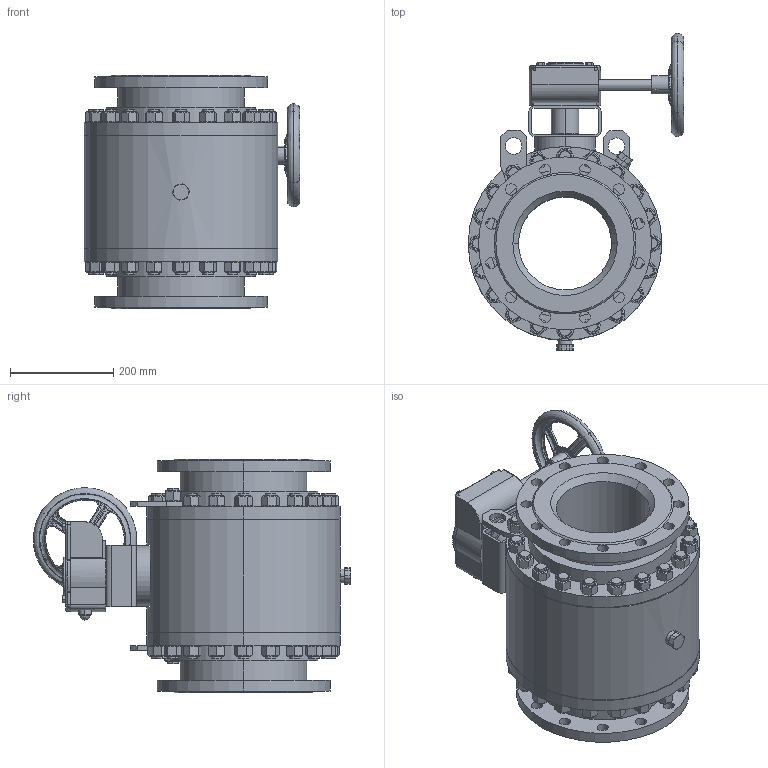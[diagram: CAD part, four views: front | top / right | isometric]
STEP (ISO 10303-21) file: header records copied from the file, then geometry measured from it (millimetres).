
FILE_DESCRIPTION(('STEP AP203'), '1');
FILE_NAME('ZARD 200.016.21.P.stp', '2013-12-06T12:18:53', ('UNSPECIFIED UNSPECIFIED'), ('UNSPECIFIED'), 'ASCON STEP Converter 1.3', 'Kompas 3D', '');
FILE_SCHEMA(('CONFIG_CONTROL_DESIGN','SUPPORT_RESOURCE_SCHEMA'));
Length unit declared in the file: millimetre
Products named in the file (1): 295
Bounding box: 417.5 x 614.44 x 452 mm (x, y, z)
Surface area: 1656914.2 mm2 (no closed solid volume)
Topology: 0 solids, 103 shells, 1476 faces, 4627 edges, 3106 vertices
Faces by surface type: plane 519, cylinder 388, bspline 319, cone 250
Entity records: 132337 total; most frequent: CARTESIAN_POINT 94871, ORIENTED_EDGE 7563, DIRECTION 6440, EDGE_CURVE 4606, VERTEX_POINT 3105, AXIS2_PLACEMENT_3D 2494, EDGE_LOOP 1753, B_SPLINE_CURVE_WITH_KNOTS 1736
